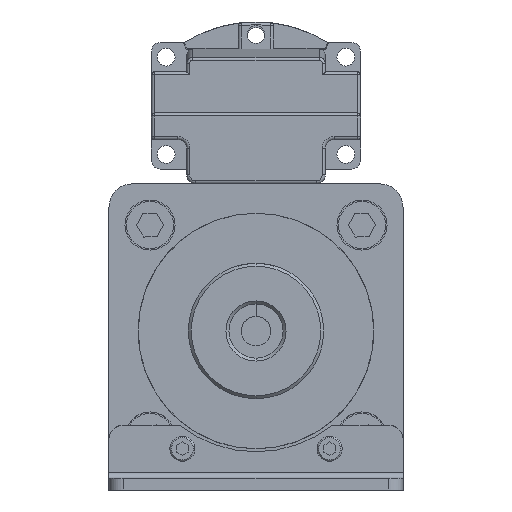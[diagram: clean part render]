
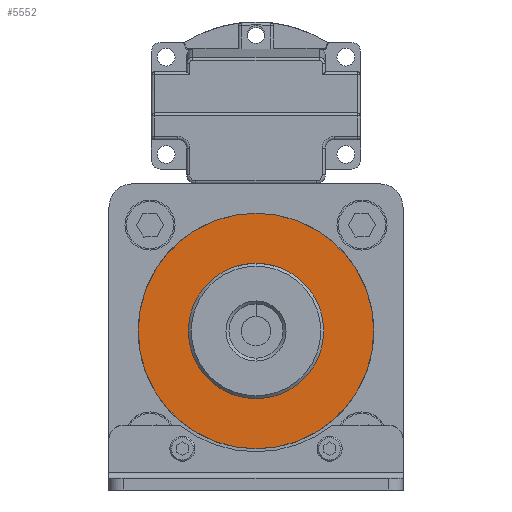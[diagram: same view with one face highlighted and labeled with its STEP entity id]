
A CAD part, front view. The second image highlights one B-rep face of the part: STEP entity #5552.
In plain terms, the highlighted planar face has unit normal (0, -1, 0).
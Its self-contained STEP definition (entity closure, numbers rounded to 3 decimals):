
#843 = VERTEX_POINT ( 'NONE', #1155 ) ;
#1079 = DIRECTION ( 'NONE',  ( 0., -1., 0. ) ) ;
#1155 = CARTESIAN_POINT ( 'NONE',  ( 0., -124.5, -27. ) ) ;
#1185 = ORIENTED_EDGE ( 'NONE', *, *, #5117, .T. ) ;
#1240 = AXIS2_PLACEMENT_3D ( 'NONE', #6366, #1079, #12868 ) ;
#1311 = DIRECTION ( 'NONE',  ( 0., -1., 0. ) ) ;
#1668 = AXIS2_PLACEMENT_3D ( 'NONE', #13542, #7181, #6933 ) ;
#2043 = VERTEX_POINT ( 'NONE', #6702 ) ;
#2222 = CIRCLE ( 'NONE', #8701, 23. ) ;
#2367 = VERTEX_POINT ( 'NONE', #7088 ) ;
#2429 = CIRCLE ( 'NONE', #8130, 40. ) ;
#2677 = ORIENTED_EDGE ( 'NONE', *, *, #4606, .F. ) ;
#2941 = AXIS2_PLACEMENT_3D ( 'NONE', #5657, #1311, #9022 ) ;
#2959 = CARTESIAN_POINT ( 'NONE',  ( 0., -124.5, -50. ) ) ;
#3403 = CIRCLE ( 'NONE', #1240, 40. ) ;
#3417 = EDGE_LOOP ( 'NONE', ( #2677, #5259 ) ) ;
#4063 = DIRECTION ( 'NONE',  ( 0., 0., -1. ) ) ;
#4514 = ORIENTED_EDGE ( 'NONE', *, *, #11704, .T. ) ;
#4594 = PLANE ( 'NONE',  #2941 ) ;
#4606 = EDGE_CURVE ( 'NONE', #2367, #843, #8364, .T. ) ;
#4656 = CARTESIAN_POINT ( 'NONE',  ( 0., -124.5, -10. ) ) ;
#4777 = FACE_OUTER_BOUND ( 'NONE', #6642, .T. ) ;
#5049 = VERTEX_POINT ( 'NONE', #4656 ) ;
#5117 = EDGE_CURVE ( 'NONE', #2043, #5049, #3403, .T. ) ;
#5259 = ORIENTED_EDGE ( 'NONE', *, *, #13093, .F. ) ;
#5552 = ADVANCED_FACE ( 'NONE', ( #4777, #7360 ), #4594, .T. ) ;
#5657 = CARTESIAN_POINT ( 'NONE',  ( 0., -124.5, -90. ) ) ;
#6225 = CARTESIAN_POINT ( 'NONE',  ( 0., -124.5, -50. ) ) ;
#6366 = CARTESIAN_POINT ( 'NONE',  ( 0., -124.5, -50. ) ) ;
#6642 = EDGE_LOOP ( 'NONE', ( #1185, #4514 ) ) ;
#6702 = CARTESIAN_POINT ( 'NONE',  ( 0., -124.5, -90. ) ) ;
#6933 = DIRECTION ( 'NONE',  ( 0., 0., -1. ) ) ;
#7088 = CARTESIAN_POINT ( 'NONE',  ( 0., -124.5, -73. ) ) ;
#7181 = DIRECTION ( 'NONE',  ( 0., -1., 0. ) ) ;
#7348 = DIRECTION ( 'NONE',  ( 0., 0., -1. ) ) ;
#7360 = FACE_BOUND ( 'NONE', #3417, .T. ) ;
#8130 = AXIS2_PLACEMENT_3D ( 'NONE', #2959, #10642, #4063 ) ;
#8364 = CIRCLE ( 'NONE', #1668, 23. ) ;
#8701 = AXIS2_PLACEMENT_3D ( 'NONE', #6225, #13943, #7348 ) ;
#9022 = DIRECTION ( 'NONE',  ( 0., 0., -1. ) ) ;
#10642 = DIRECTION ( 'NONE',  ( 0., -1., 0. ) ) ;
#11704 = EDGE_CURVE ( 'NONE', #5049, #2043, #2429, .T. ) ;
#12868 = DIRECTION ( 'NONE',  ( 0., 0., -1. ) ) ;
#13093 = EDGE_CURVE ( 'NONE', #843, #2367, #2222, .T. ) ;
#13542 = CARTESIAN_POINT ( 'NONE',  ( 0., -124.5, -50. ) ) ;
#13943 = DIRECTION ( 'NONE',  ( 0., -1., 0. ) ) ;
